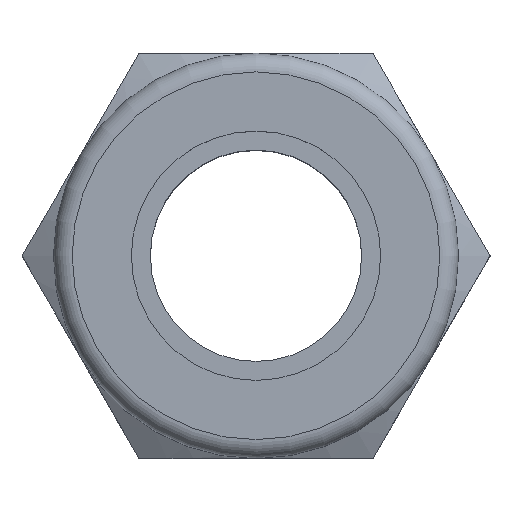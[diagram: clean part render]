
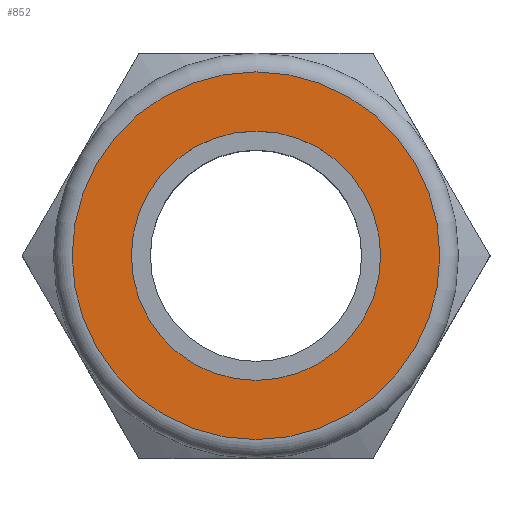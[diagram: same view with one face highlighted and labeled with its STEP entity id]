
A CAD part, top view. The second image highlights one B-rep face of the part: STEP entity #852.
In plain terms, the highlighted planar face has unit normal (0, 0, 1).
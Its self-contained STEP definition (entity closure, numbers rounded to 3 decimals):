
#43=FACE_BOUND('',#234,.T.);
#104=CIRCLE('',#963,5.899);
#105=CIRCLE('',#965,4.);
#171=FACE_OUTER_BOUND('',#233,.T.);
#233=EDGE_LOOP('',(#692));
#234=EDGE_LOOP('',(#693));
#425=VERTEX_POINT('',#1416);
#426=VERTEX_POINT('',#1420);
#518=EDGE_CURVE('',#425,#425,#104,.T.);
#519=EDGE_CURVE('',#426,#426,#105,.T.);
#692=ORIENTED_EDGE('',*,*,#518,.F.);
#693=ORIENTED_EDGE('',*,*,#519,.T.);
#808=PLANE('',#964);
#852=ADVANCED_FACE('',(#171,#43),#808,.T.);
#963=AXIS2_PLACEMENT_3D('',#1418,#1171,#1172);
#964=AXIS2_PLACEMENT_3D('',#1419,#1173,#1174);
#965=AXIS2_PLACEMENT_3D('',#1421,#1175,#1176);
#1171=DIRECTION('center_axis',(0.,0.,-1.));
#1172=DIRECTION('ref_axis',(1.,0.,0.));
#1173=DIRECTION('center_axis',(0.,0.,1.));
#1174=DIRECTION('ref_axis',(1.,0.,0.));
#1175=DIRECTION('center_axis',(0.,0.,-1.));
#1176=DIRECTION('ref_axis',(1.,0.,0.));
#1416=CARTESIAN_POINT('',(5.899,0.,8.));
#1418=CARTESIAN_POINT('Origin',(0.,0.,8.));
#1419=CARTESIAN_POINT('Origin',(-5.899,0.,8.));
#1420=CARTESIAN_POINT('',(4.,0.,8.));
#1421=CARTESIAN_POINT('Origin',(0.,0.,8.));
